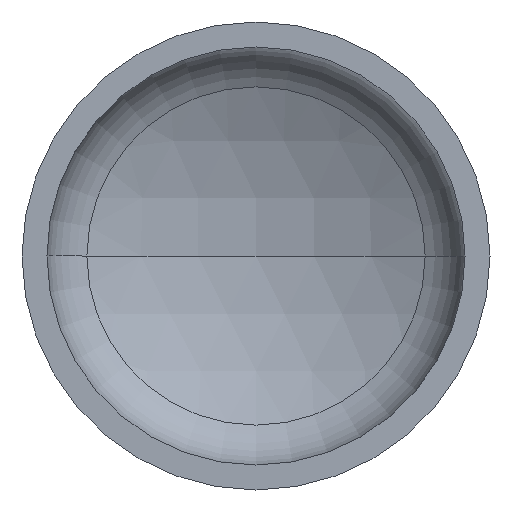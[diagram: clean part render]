
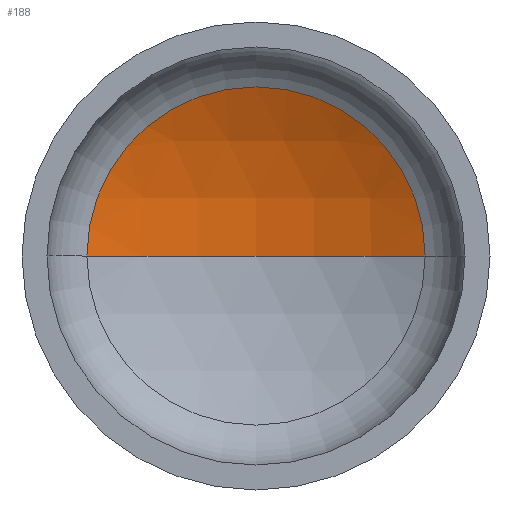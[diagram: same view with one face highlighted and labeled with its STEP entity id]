
A CAD part, front view. The second image highlights one B-rep face of the part: STEP entity #188.
In plain terms, the highlighted spherical face has radius 720 mm.
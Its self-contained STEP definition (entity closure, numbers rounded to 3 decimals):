
#1 = EDGE_CURVE ( 'NONE', #350, #60, #254, .T. ) ;
#10 = EDGE_CURVE ( 'NONE', #298, #60, #339, .T. ) ;
#11 = DIRECTION ( 'NONE',  ( 0., 0., -1. ) ) ;
#20 = EDGE_CURVE ( 'NONE', #350, #298, #241, .T. ) ;
#33 = CARTESIAN_POINT ( 'NONE',  ( -325.241, 274.902, 0. ) ) ;
#44 = CARTESIAN_POINT ( 'NONE',  ( 0., 352.549, 0. ) ) ;
#49 = AXIS2_PLACEMENT_3D ( 'NONE', #243, #337, #182 ) ;
#57 = DIRECTION ( 'NONE',  ( 0., 0., -1. ) ) ;
#60 = VERTEX_POINT ( 'NONE', #33 ) ;
#91 = CARTESIAN_POINT ( 'NONE',  ( 325.241, 274.902, 0. ) ) ;
#96 = AXIS2_PLACEMENT_3D ( 'NONE', #161, #160, #294 ) ;
#160 = DIRECTION ( 'NONE',  ( 0., -1., 0. ) ) ;
#161 = CARTESIAN_POINT ( 'NONE',  ( 0., 274.902, 0. ) ) ;
#181 = ORIENTED_EDGE ( 'NONE', *, *, #1, .F. ) ;
#182 = DIRECTION ( 'NONE',  ( 1., 0., 0. ) ) ;
#184 = AXIS2_PLACEMENT_3D ( 'NONE', #315, #57, #347 ) ;
#188 = ADVANCED_FACE ( 'NONE', ( #304 ), #367, .F. ) ;
#189 = CARTESIAN_POINT ( 'NONE',  ( 0., -367.451, 0. ) ) ;
#216 = DIRECTION ( 'NONE',  ( -1., 0., 0. ) ) ;
#241 = CIRCLE ( 'NONE', #184, 720. ) ;
#243 = CARTESIAN_POINT ( 'NONE',  ( 0., -367.451, 0. ) ) ;
#254 = CIRCLE ( 'NONE', #49, 720. ) ;
#291 = ORIENTED_EDGE ( 'NONE', *, *, #10, .T. ) ;
#294 = DIRECTION ( 'NONE',  ( 1., 0., 0. ) ) ;
#298 = VERTEX_POINT ( 'NONE', #91 ) ;
#304 = FACE_OUTER_BOUND ( 'NONE', #366, .T. ) ;
#315 = CARTESIAN_POINT ( 'NONE',  ( 0., -367.451, 0. ) ) ;
#337 = DIRECTION ( 'NONE',  ( 0., 0., 1. ) ) ;
#339 = CIRCLE ( 'NONE', #96, 325.241 ) ;
#347 = DIRECTION ( 'NONE',  ( -1., 0., 0. ) ) ;
#350 = VERTEX_POINT ( 'NONE', #44 ) ;
#366 = EDGE_LOOP ( 'NONE', ( #181, #392, #291 ) ) ;
#367 = SPHERICAL_SURFACE ( 'NONE', #403, 720. ) ;
#392 = ORIENTED_EDGE ( 'NONE', *, *, #20, .T. ) ;
#403 = AXIS2_PLACEMENT_3D ( 'NONE', #189, #11, #216 ) ;
